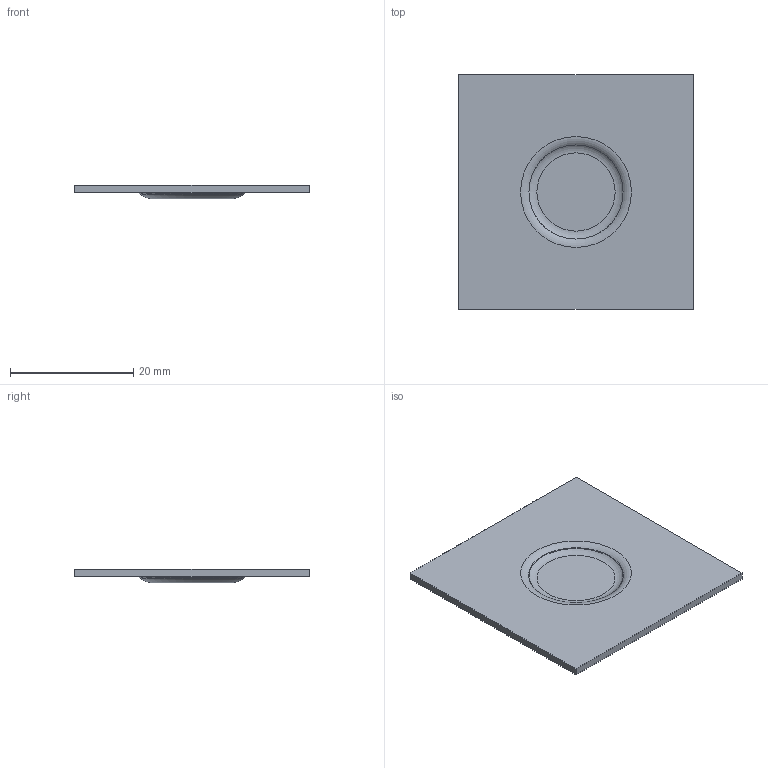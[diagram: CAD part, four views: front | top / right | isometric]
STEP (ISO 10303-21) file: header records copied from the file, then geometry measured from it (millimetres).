
FILE_DESCRIPTION((''),'1');
FILE_NAME('C:/Users/ericfrey/Desktop/DIMPLE.stp', '2017-03-16T19:47:12',(''), (''), 'KCM Version 1.1.2016.0', 'Kubotek KeyCreator', '');
FILE_SCHEMA(('AUTOMOTIVE_DESIGN'));
Length unit declared in the file: inch
Bounding box: 38.1 x 38.1 x 2.2 mm (x, y, z)
Volume: 1756.5 mm3; surface area: 3110.4 mm2
Topology: 1 solids, 1 shells, 14 faces, 26 edges, 16 vertices
Faces by surface type: plane 8, torus 4, cone 2
Entity records: 375 total; most frequent: DIRECTION 68, CARTESIAN_POINT 57, ORIENTED_EDGE 52, AXIS2_PLACEMENT_3D 27, EDGE_CURVE 26, VERTEX_POINT 16, EDGE_LOOP 16, FACE_OUTER_BOUND 14
